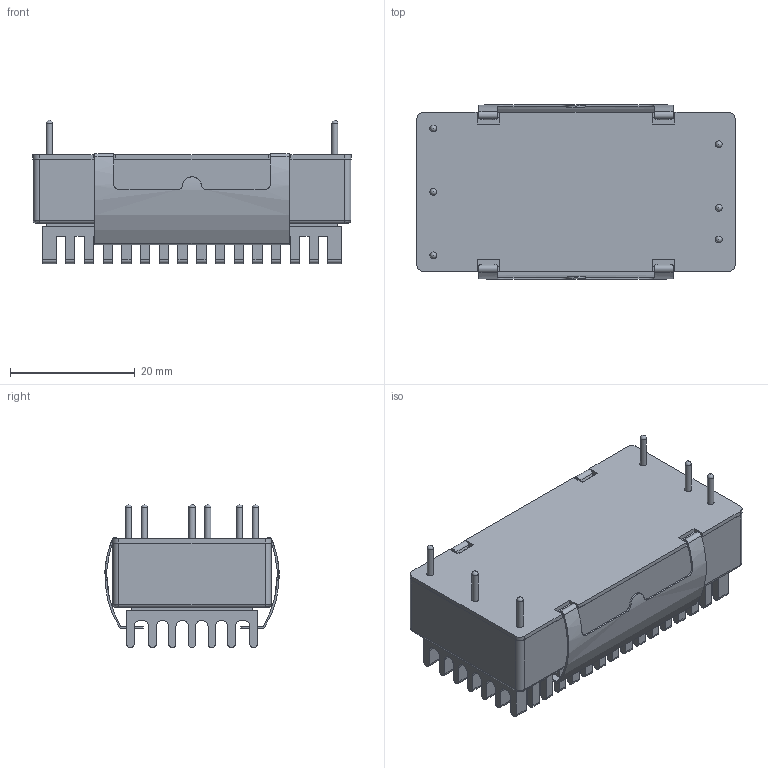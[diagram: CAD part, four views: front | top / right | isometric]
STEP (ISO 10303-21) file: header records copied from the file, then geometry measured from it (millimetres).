
FILE_DESCRIPTION(/* description */ (''),/* implementation_level */ '2;1');
FILE_NAME(/* name */ 'C:\Users\Calliope\Desktop\JSK50-HK.stp',/* time_stamp */ '2017-11-10T14:46:44+08:00',/* author */ ('Calliope'),/* organization */ (''),/* preprocessor_version */ 'ST-DEVELOPER v15.6',/* originating_system */ 'Autodesk Inventor 2015',/* authorisation */ '');
FILE_SCHEMA (('AUTOMOTIVE_DESIGN { 1 0 10303 214 3 1 1 }'));
Length unit declared in the file: millimetre
Products named in the file (1): JSK50-HK
Bounding box: 50.95 x 27.92 x 22.95 mm (x, y, z)
Volume: 6370.8 mm3; surface area: 12936.5 mm2
Topology: 1 solids, 1 shells, 910 faces, 2564 edges, 1626 vertices
Faces by surface type: plane 530, cylinder 366, sphere 10, bspline 4
Full cylindrical faces by diameter (mm): 1 x6, 1.1 x6
Entity records: 29592 total; most frequent: CARTESIAN_POINT 5435, DIRECTION 5170, ORIENTED_EDGE 5080, EDGE_CURVE 2540, AXIS2_PLACEMENT_3D 1759, LINE 1652, VECTOR 1652, VERTEX_POINT 1628
